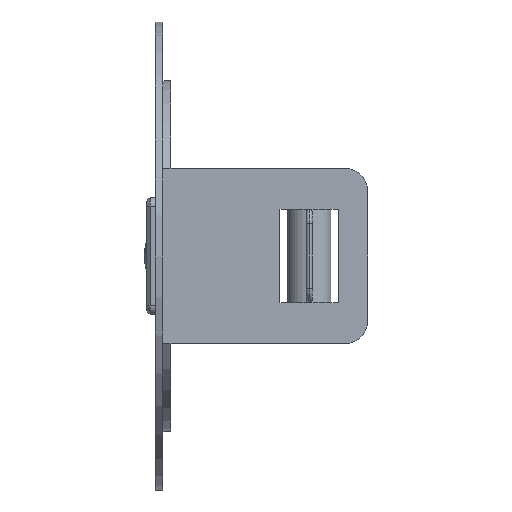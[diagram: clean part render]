
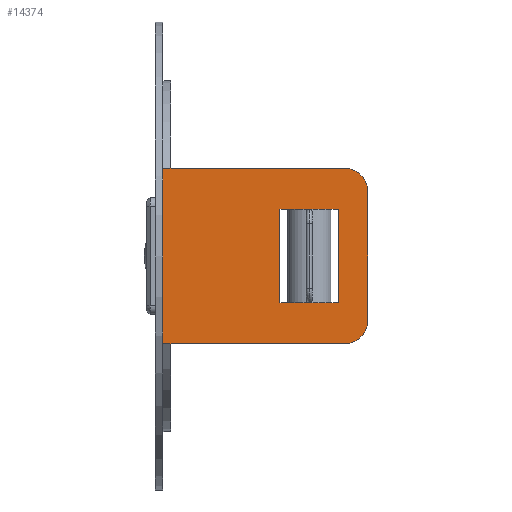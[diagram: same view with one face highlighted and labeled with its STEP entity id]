
A CAD part, left-side view. The second image highlights one B-rep face of the part: STEP entity #14374.
In plain terms, the highlighted planar face has unit normal (-1, 0, 0).
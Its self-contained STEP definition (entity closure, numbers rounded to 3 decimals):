
#29 = LINE ( 'NONE', #11519, #5238 ) ;
#186 = VECTOR ( 'NONE', #7891, 1000. ) ;
#362 = DIRECTION ( 'NONE',  ( 0., 0., -1. ) ) ;
#943 = ORIENTED_EDGE ( 'NONE', *, *, #955, .F. ) ;
#955 = EDGE_CURVE ( 'NONE', #2210, #12455, #18312, .T. ) ;
#1069 = VERTEX_POINT ( 'NONE', #10913 ) ;
#1408 = EDGE_CURVE ( 'NONE', #18701, #4522, #12616, .T. ) ;
#1465 = CARTESIAN_POINT ( 'NONE',  ( -32.5, 14.4, 15. ) ) ;
#1587 = DIRECTION ( 'NONE',  ( 0., 1., 0. ) ) ;
#1604 = CARTESIAN_POINT ( 'NONE',  ( -32.5, -4.3, 8. ) ) ;
#1678 = DIRECTION ( 'NONE',  ( 0., 0., 1. ) ) ;
#1893 = CARTESIAN_POINT ( 'NONE',  ( -32.5, -4.3, 8. ) ) ;
#2151 = VERTEX_POINT ( 'NONE', #13347 ) ;
#2193 = CARTESIAN_POINT ( 'NONE',  ( -32.5, 15.7, -15. ) ) ;
#2210 = VERTEX_POINT ( 'NONE', #7750 ) ;
#2216 = CARTESIAN_POINT ( 'NONE',  ( -32.5, -14.3, 8. ) ) ;
#2311 = CARTESIAN_POINT ( 'NONE',  ( -32.5, 15.7, 15. ) ) ;
#2510 = VECTOR ( 'NONE', #6564, 1000. ) ;
#2675 = VECTOR ( 'NONE', #16817, 1000. ) ;
#2847 = AXIS2_PLACEMENT_3D ( 'NONE', #13408, #4788, #14876 ) ;
#3176 = ORIENTED_EDGE ( 'NONE', *, *, #3773, .F. ) ;
#3217 = FACE_BOUND ( 'NONE', #12788, .T. ) ;
#3351 = LINE ( 'NONE', #16195, #14372 ) ;
#3499 = VERTEX_POINT ( 'NONE', #12775 ) ;
#3547 = VECTOR ( 'NONE', #8324, 1000. ) ;
#3623 = EDGE_LOOP ( 'NONE', ( #943, #11902, #3176, #5268, #8994, #18143 ) ) ;
#3773 = EDGE_CURVE ( 'NONE', #18584, #5611, #11171, .T. ) ;
#3853 = CARTESIAN_POINT ( 'NONE',  ( -32.5, 14.4, 15. ) ) ;
#3905 = CARTESIAN_POINT ( 'NONE',  ( -32.5, -11.972, 8. ) ) ;
#4050 = DIRECTION ( 'NONE',  ( 0., -1., 0. ) ) ;
#4301 = CARTESIAN_POINT ( 'NONE',  ( -32.5, -5.607, -8. ) ) ;
#4472 = CARTESIAN_POINT ( 'NONE',  ( -32.5, -19.3, 11. ) ) ;
#4522 = VERTEX_POINT ( 'NONE', #10011 ) ;
#4788 = DIRECTION ( 'NONE',  ( -1., 0., 0. ) ) ;
#4800 = VECTOR ( 'NONE', #12452, 1000. ) ;
#4961 = DIRECTION ( 'NONE',  ( 0., 0., -1. ) ) ;
#5126 = CARTESIAN_POINT ( 'NONE',  ( -32.5, -14.3, 8. ) ) ;
#5238 = VECTOR ( 'NONE', #12972, 1000. ) ;
#5268 = ORIENTED_EDGE ( 'NONE', *, *, #15196, .T. ) ;
#5538 = EDGE_CURVE ( 'NONE', #16870, #18345, #6765, .T. ) ;
#5590 = VERTEX_POINT ( 'NONE', #15949 ) ;
#5611 = VERTEX_POINT ( 'NONE', #17415 ) ;
#5633 = ORIENTED_EDGE ( 'NONE', *, *, #13472, .F. ) ;
#5750 = ORIENTED_EDGE ( 'NONE', *, *, #7084, .F. ) ;
#5767 = DIRECTION ( 'NONE',  ( 0., 1., 0. ) ) ;
#5829 = PLANE ( 'NONE',  #8770 ) ;
#5870 = EDGE_CURVE ( 'NONE', #15991, #18621, #11245, .T. ) ;
#5879 = VECTOR ( 'NONE', #13129, 1000. ) ;
#5962 = EDGE_CURVE ( 'NONE', #18345, #3499, #17107, .T. ) ;
#6106 = VECTOR ( 'NONE', #1587, 1000. ) ;
#6299 = CARTESIAN_POINT ( 'NONE',  ( -32.5, -14.3, 8. ) ) ;
#6418 = CARTESIAN_POINT ( 'NONE',  ( -32.5, 14.4, -15. ) ) ;
#6464 = VERTEX_POINT ( 'NONE', #9991 ) ;
#6564 = DIRECTION ( 'NONE',  ( 0., 1., 0. ) ) ;
#6644 = VERTEX_POINT ( 'NONE', #2311 ) ;
#6765 = LINE ( 'NONE', #17355, #14432 ) ;
#6940 = LINE ( 'NONE', #5126, #2675 ) ;
#7080 = ORIENTED_EDGE ( 'NONE', *, *, #7366, .F. ) ;
#7084 = EDGE_CURVE ( 'NONE', #5590, #18701, #6940, .T. ) ;
#7263 = DIRECTION ( 'NONE',  ( 0., 0., -1. ) ) ;
#7366 = EDGE_CURVE ( 'NONE', #8056, #11196, #3351, .T. ) ;
#7750 = CARTESIAN_POINT ( 'NONE',  ( -32.5, -15.3, -15. ) ) ;
#7891 = DIRECTION ( 'NONE',  ( 0., -1., 0. ) ) ;
#8044 = DIRECTION ( 'NONE',  ( -1., 0., 0. ) ) ;
#8056 = VERTEX_POINT ( 'NONE', #8274 ) ;
#8274 = CARTESIAN_POINT ( 'NONE',  ( -32.5, -11.972, -8. ) ) ;
#8324 = DIRECTION ( 'NONE',  ( 0., -1., 0. ) ) ;
#8607 = LINE ( 'NONE', #3853, #4800 ) ;
#8770 = AXIS2_PLACEMENT_3D ( 'NONE', #1465, #15867, #7263 ) ;
#8773 = ORIENTED_EDGE ( 'NONE', *, *, #17868, .F. ) ;
#8781 = CARTESIAN_POINT ( 'NONE',  ( -32.5, -12.993, -8. ) ) ;
#8994 = ORIENTED_EDGE ( 'NONE', *, *, #13356, .T. ) ;
#9018 = DIRECTION ( 'NONE',  ( 0., -1., 0. ) ) ;
#9237 = DIRECTION ( 'NONE',  ( 0., 1., 0. ) ) ;
#9262 = CARTESIAN_POINT ( 'NONE',  ( -32.5, -14.3, -8. ) ) ;
#9592 = ORIENTED_EDGE ( 'NONE', *, *, #5870, .F. ) ;
#9867 = ORIENTED_EDGE ( 'NONE', *, *, #14049, .F. ) ;
#9991 = CARTESIAN_POINT ( 'NONE',  ( -32.5, -14.3, 8. ) ) ;
#10011 = CARTESIAN_POINT ( 'NONE',  ( -32.5, -4.3, -8. ) ) ;
#10168 = LINE ( 'NONE', #2216, #2510 ) ;
#10205 = CARTESIAN_POINT ( 'NONE',  ( -32.5, -14.3, 8. ) ) ;
#10308 = CARTESIAN_POINT ( 'NONE',  ( -32.5, -14.3, 8. ) ) ;
#10742 = EDGE_CURVE ( 'NONE', #2210, #5611, #15181, .T. ) ;
#10913 = CARTESIAN_POINT ( 'NONE',  ( -32.5, -14.3, -8. ) ) ;
#11050 = LINE ( 'NONE', #6299, #14926 ) ;
#11171 = LINE ( 'NONE', #12131, #15448 ) ;
#11196 = VERTEX_POINT ( 'NONE', #8781 ) ;
#11203 = CARTESIAN_POINT ( 'NONE',  ( -32.5, -14.3, -8. ) ) ;
#11245 = LINE ( 'NONE', #11203, #18466 ) ;
#11456 = VECTOR ( 'NONE', #362, 1000. ) ;
#11519 = CARTESIAN_POINT ( 'NONE',  ( -32.5, -14.3, -8. ) ) ;
#11712 = LINE ( 'NONE', #9262, #186 ) ;
#11902 = ORIENTED_EDGE ( 'NONE', *, *, #10742, .T. ) ;
#12131 = CARTESIAN_POINT ( 'NONE',  ( -32.5, -19.3, -15. ) ) ;
#12452 = DIRECTION ( 'NONE',  ( 0., 1., 0. ) ) ;
#12455 = VERTEX_POINT ( 'NONE', #2193 ) ;
#12616 = LINE ( 'NONE', #1604, #5879 ) ;
#12775 = CARTESIAN_POINT ( 'NONE',  ( -32.5, -6.628, 8. ) ) ;
#12788 = EDGE_LOOP ( 'NONE', ( #17266, #8773, #7080, #14177, #9592, #5633, #16984, #5750, #17419, #13205, #15656, #9867 ) ) ;
#12972 = DIRECTION ( 'NONE',  ( 0., -1., 0. ) ) ;
#13129 = DIRECTION ( 'NONE',  ( 0., 0., -1. ) ) ;
#13154 = CARTESIAN_POINT ( 'NONE',  ( -32.5, -6.628, -8. ) ) ;
#13205 = ORIENTED_EDGE ( 'NONE', *, *, #5962, .F. ) ;
#13347 = CARTESIAN_POINT ( 'NONE',  ( -32.5, -15.3, 15. ) ) ;
#13352 = CARTESIAN_POINT ( 'NONE',  ( -32.5, 15.7, 15. ) ) ;
#13356 = EDGE_CURVE ( 'NONE', #2151, #6644, #8607, .T. ) ;
#13408 = CARTESIAN_POINT ( 'NONE',  ( -32.5, -15.3, -11. ) ) ;
#13472 = EDGE_CURVE ( 'NONE', #4522, #15991, #29, .T. ) ;
#14049 = EDGE_CURVE ( 'NONE', #6464, #16870, #11050, .T. ) ;
#14177 = ORIENTED_EDGE ( 'NONE', *, *, #16132, .F. ) ;
#14372 = VECTOR ( 'NONE', #9018, 1000. ) ;
#14374 = ADVANCED_FACE ( 'NONE', ( #3217, #14690 ), #5829, .F. ) ;
#14432 = VECTOR ( 'NONE', #5767, 1000. ) ;
#14500 = VECTOR ( 'NONE', #9237, 1000. ) ;
#14690 = FACE_OUTER_BOUND ( 'NONE', #3623, .T. ) ;
#14717 = EDGE_CURVE ( 'NONE', #3499, #5590, #10168, .T. ) ;
#14876 = DIRECTION ( 'NONE',  ( 0., 0., -1. ) ) ;
#14926 = VECTOR ( 'NONE', #17804, 1000. ) ;
#15028 = LINE ( 'NONE', #16944, #3547 ) ;
#15181 = CIRCLE ( 'NONE', #2847, 4. ) ;
#15196 = EDGE_CURVE ( 'NONE', #18584, #2151, #18716, .T. ) ;
#15396 = CARTESIAN_POINT ( 'NONE',  ( -32.5, -12.993, 8. ) ) ;
#15448 = VECTOR ( 'NONE', #4961, 1000. ) ;
#15656 = ORIENTED_EDGE ( 'NONE', *, *, #5538, .F. ) ;
#15726 = LINE ( 'NONE', #13352, #11456 ) ;
#15867 = DIRECTION ( 'NONE',  ( 1., 0., 0. ) ) ;
#15949 = CARTESIAN_POINT ( 'NONE',  ( -32.5, -5.607, 8. ) ) ;
#15991 = VERTEX_POINT ( 'NONE', #4301 ) ;
#16132 = EDGE_CURVE ( 'NONE', #18621, #8056, #11712, .T. ) ;
#16154 = LINE ( 'NONE', #10308, #17052 ) ;
#16195 = CARTESIAN_POINT ( 'NONE',  ( -32.5, -14.3, -8. ) ) ;
#16461 = EDGE_CURVE ( 'NONE', #6644, #12455, #15726, .T. ) ;
#16662 = CARTESIAN_POINT ( 'NONE',  ( -32.5, -15.3, 11. ) ) ;
#16737 = AXIS2_PLACEMENT_3D ( 'NONE', #16662, #8044, #18109 ) ;
#16817 = DIRECTION ( 'NONE',  ( 0., 1., 0. ) ) ;
#16870 = VERTEX_POINT ( 'NONE', #15396 ) ;
#16944 = CARTESIAN_POINT ( 'NONE',  ( -32.5, -14.3, -8. ) ) ;
#16984 = ORIENTED_EDGE ( 'NONE', *, *, #1408, .F. ) ;
#17052 = VECTOR ( 'NONE', #1678, 1000. ) ;
#17107 = LINE ( 'NONE', #10205, #6106 ) ;
#17266 = ORIENTED_EDGE ( 'NONE', *, *, #17495, .F. ) ;
#17355 = CARTESIAN_POINT ( 'NONE',  ( -32.5, -14.3, 8. ) ) ;
#17415 = CARTESIAN_POINT ( 'NONE',  ( -32.5, -19.3, -11. ) ) ;
#17419 = ORIENTED_EDGE ( 'NONE', *, *, #14717, .F. ) ;
#17495 = EDGE_CURVE ( 'NONE', #1069, #6464, #16154, .T. ) ;
#17804 = DIRECTION ( 'NONE',  ( 0., 1., 0. ) ) ;
#17868 = EDGE_CURVE ( 'NONE', #11196, #1069, #15028, .T. ) ;
#18109 = DIRECTION ( 'NONE',  ( 0., 0., -1. ) ) ;
#18143 = ORIENTED_EDGE ( 'NONE', *, *, #16461, .T. ) ;
#18312 = LINE ( 'NONE', #6418, #14500 ) ;
#18345 = VERTEX_POINT ( 'NONE', #3905 ) ;
#18466 = VECTOR ( 'NONE', #4050, 1000. ) ;
#18584 = VERTEX_POINT ( 'NONE', #4472 ) ;
#18621 = VERTEX_POINT ( 'NONE', #13154 ) ;
#18701 = VERTEX_POINT ( 'NONE', #1893 ) ;
#18716 = CIRCLE ( 'NONE', #16737, 4. ) ;
